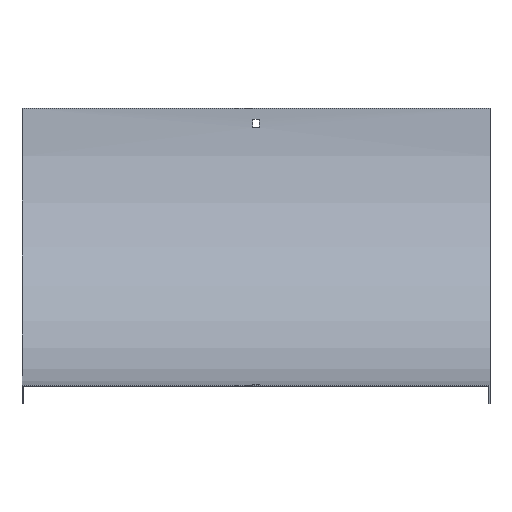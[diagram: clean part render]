
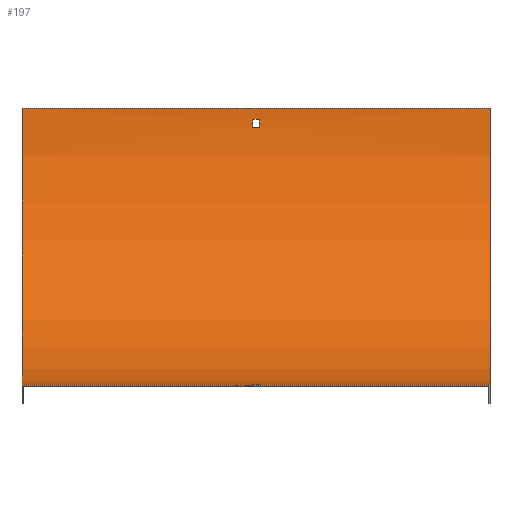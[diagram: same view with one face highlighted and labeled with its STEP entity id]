
A CAD part, top view. The second image highlights one B-rep face of the part: STEP entity #197.
In plain terms, the highlighted cylindrical face has radius 298.5 mm (diameter 597 mm), a partial arc.
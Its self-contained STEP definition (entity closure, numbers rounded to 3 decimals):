
#5 = LINE ( 'NONE', #240, #598 ) ;
#6 = ORIENTED_EDGE ( 'NONE', *, *, #430, .T. ) ;
#12 = VERTEX_POINT ( 'NONE', #390 ) ;
#15 = ORIENTED_EDGE ( 'NONE', *, *, #519, .T. ) ;
#20 = DIRECTION ( 'NONE',  ( 0., 0., 1. ) ) ;
#32 = CARTESIAN_POINT ( 'NONE',  ( -251.5, 298.5, 0. ) ) ;
#35 = CARTESIAN_POINT ( 'NONE',  ( 3.25, 298.5, 0. ) ) ;
#36 = CARTESIAN_POINT ( 'NONE',  ( 3.25, 0.241, -12. ) ) ;
#38 = DIRECTION ( 'NONE',  ( 0., 0., -1. ) ) ;
#40 = CYLINDRICAL_SURFACE ( 'NONE', #89, 298.5 ) ;
#44 = VECTOR ( 'NONE', #248, 1000. ) ;
#48 = CARTESIAN_POINT ( 'NONE',  ( 251.5, 0., 0. ) ) ;
#51 = DIRECTION ( 'NONE',  ( -1., 0., 0. ) ) ;
#56 = DIRECTION ( 'NONE',  ( -1., 0., 0. ) ) ;
#60 = VERTEX_POINT ( 'NONE', #352 ) ;
#62 = CARTESIAN_POINT ( 'NONE',  ( 3.25, 298.5, 0. ) ) ;
#66 = DIRECTION ( 'NONE',  ( 1., 0., 0. ) ) ;
#76 = CARTESIAN_POINT ( 'NONE',  ( -3.25, 298.5, 0. ) ) ;
#85 = VERTEX_POINT ( 'NONE', #117 ) ;
#89 = AXIS2_PLACEMENT_3D ( 'NONE', #508, #418, #270 ) ;
#104 = CARTESIAN_POINT ( 'NONE',  ( 251.5, 0., 0. ) ) ;
#108 = ORIENTED_EDGE ( 'NONE', *, *, #410, .F. ) ;
#109 = EDGE_LOOP ( 'NONE', ( #15, #108, #232, #6 ) ) ;
#115 = DIRECTION ( 'NONE',  ( 0., 0., 1. ) ) ;
#117 = CARTESIAN_POINT ( 'NONE',  ( 3.25, 277.5, -297.76 ) ) ;
#126 = FACE_BOUND ( 'NONE', #439, .T. ) ;
#127 = AXIS2_PLACEMENT_3D ( 'NONE', #543, #273, #539 ) ;
#129 = EDGE_CURVE ( 'NONE', #60, #205, #339, .T. ) ;
#131 = CARTESIAN_POINT ( 'NONE',  ( 251.5, 0.241, -12. ) ) ;
#139 = VERTEX_POINT ( 'NONE', #378 ) ;
#140 = LINE ( 'NONE', #415, #354 ) ;
#156 = VERTEX_POINT ( 'NONE', #228 ) ;
#157 = CARTESIAN_POINT ( 'NONE',  ( 251.5, 298.5, -298.5 ) ) ;
#161 = EDGE_CURVE ( 'NONE', #139, #200, #140, .T. ) ;
#170 = ORIENTED_EDGE ( 'NONE', *, *, #385, .F. ) ;
#179 = EDGE_CURVE ( 'NONE', #205, #449, #467, .T. ) ;
#190 = CARTESIAN_POINT ( 'NONE',  ( -3.25, 0.241, -12. ) ) ;
#194 = ORIENTED_EDGE ( 'NONE', *, *, #490, .T. ) ;
#195 = CARTESIAN_POINT ( 'NONE',  ( -3.25, 277.5, -297.76 ) ) ;
#197 = ADVANCED_FACE ( 'NONE', ( #423, #318, #126 ), #40, .F. ) ;
#200 = VERTEX_POINT ( 'NONE', #462 ) ;
#205 = VERTEX_POINT ( 'NONE', #36 ) ;
#216 = CIRCLE ( 'NONE', #289, 298.5 ) ;
#219 = LINE ( 'NONE', #261, #281 ) ;
#220 = DIRECTION ( 'NONE',  ( -1., 0., 0. ) ) ;
#223 = CARTESIAN_POINT ( 'NONE',  ( -251.5, 0., 0. ) ) ;
#228 = CARTESIAN_POINT ( 'NONE',  ( -251.5, 298.5, -298.5 ) ) ;
#232 = ORIENTED_EDGE ( 'NONE', *, *, #238, .F. ) ;
#234 = VECTOR ( 'NONE', #464, 1000. ) ;
#238 = EDGE_CURVE ( 'NONE', #305, #469, #343, .T. ) ;
#239 = CARTESIAN_POINT ( 'NONE',  ( 251.5, 277.5, -297.76 ) ) ;
#240 = CARTESIAN_POINT ( 'NONE',  ( 251.5, 298.5, -298.5 ) ) ;
#248 = DIRECTION ( 'NONE',  ( 1., 0., 0. ) ) ;
#261 = CARTESIAN_POINT ( 'NONE',  ( 251.5, 0.74, -21. ) ) ;
#269 = CARTESIAN_POINT ( 'NONE',  ( 251.5, 298.5, 0. ) ) ;
#270 = DIRECTION ( 'NONE',  ( 0., 0., 1. ) ) ;
#271 = DIRECTION ( 'NONE',  ( 1., 0., 0. ) ) ;
#273 = DIRECTION ( 'NONE',  ( -1., 0., 0. ) ) ;
#277 = EDGE_CURVE ( 'NONE', #85, #139, #559, .T. ) ;
#278 = DIRECTION ( 'NONE',  ( -1., 0., 0. ) ) ;
#281 = VECTOR ( 'NONE', #600, 1000. ) ;
#287 = LINE ( 'NONE', #48, #514 ) ;
#289 = AXIS2_PLACEMENT_3D ( 'NONE', #76, #271, #459 ) ;
#305 = VERTEX_POINT ( 'NONE', #157 ) ;
#318 = FACE_BOUND ( 'NONE', #406, .T. ) ;
#332 = CIRCLE ( 'NONE', #127, 298.5 ) ;
#333 = LINE ( 'NONE', #239, #44 ) ;
#339 = CIRCLE ( 'NONE', #491, 298.5 ) ;
#343 = CIRCLE ( 'NONE', #458, 298.5 ) ;
#352 = CARTESIAN_POINT ( 'NONE',  ( 3.25, 0.74, -21. ) ) ;
#354 = VECTOR ( 'NONE', #278, 1000. ) ;
#358 = ORIENTED_EDGE ( 'NONE', *, *, #129, .T. ) ;
#364 = VERTEX_POINT ( 'NONE', #195 ) ;
#370 = DIRECTION ( 'NONE',  ( -1., 0., 0. ) ) ;
#376 = ORIENTED_EDGE ( 'NONE', *, *, #528, .F. ) ;
#378 = CARTESIAN_POINT ( 'NONE',  ( 3.25, 286.5, -298.259 ) ) ;
#379 = AXIS2_PLACEMENT_3D ( 'NONE', #32, #370, #115 ) ;
#385 = EDGE_CURVE ( 'NONE', #364, #85, #333, .T. ) ;
#390 = CARTESIAN_POINT ( 'NONE',  ( -3.25, 0.74, -21. ) ) ;
#406 = EDGE_LOOP ( 'NONE', ( #566, #194, #571, #358 ) ) ;
#410 = EDGE_CURVE ( 'NONE', #469, #496, #287, .T. ) ;
#415 = CARTESIAN_POINT ( 'NONE',  ( 251.5, 286.5, -298.259 ) ) ;
#418 = DIRECTION ( 'NONE',  ( -1., 0., 0. ) ) ;
#423 = FACE_OUTER_BOUND ( 'NONE', #109, .T. ) ;
#430 = EDGE_CURVE ( 'NONE', #305, #156, #5, .T. ) ;
#434 = ORIENTED_EDGE ( 'NONE', *, *, #277, .F. ) ;
#436 = ORIENTED_EDGE ( 'NONE', *, *, #161, .F. ) ;
#439 = EDGE_LOOP ( 'NONE', ( #376, #436, #434, #170 ) ) ;
#444 = AXIS2_PLACEMENT_3D ( 'NONE', #62, #66, #544 ) ;
#449 = VERTEX_POINT ( 'NONE', #190 ) ;
#458 = AXIS2_PLACEMENT_3D ( 'NONE', #269, #220, #20 ) ;
#459 = DIRECTION ( 'NONE',  ( 0., 0., 1. ) ) ;
#462 = CARTESIAN_POINT ( 'NONE',  ( -3.25, 286.5, -298.259 ) ) ;
#464 = DIRECTION ( 'NONE',  ( -1., 0., 0. ) ) ;
#467 = LINE ( 'NONE', #131, #234 ) ;
#469 = VERTEX_POINT ( 'NONE', #104 ) ;
#490 = EDGE_CURVE ( 'NONE', #449, #12, #216, .T. ) ;
#491 = AXIS2_PLACEMENT_3D ( 'NONE', #35, #597, #38 ) ;
#496 = VERTEX_POINT ( 'NONE', #223 ) ;
#508 = CARTESIAN_POINT ( 'NONE',  ( 251.5, 298.5, 0. ) ) ;
#514 = VECTOR ( 'NONE', #56, 1000. ) ;
#519 = EDGE_CURVE ( 'NONE', #156, #496, #526, .T. ) ;
#526 = CIRCLE ( 'NONE', #379, 298.5 ) ;
#528 = EDGE_CURVE ( 'NONE', #200, #364, #332, .T. ) ;
#539 = DIRECTION ( 'NONE',  ( 0., 1., 0. ) ) ;
#543 = CARTESIAN_POINT ( 'NONE',  ( -3.25, 298.5, 0. ) ) ;
#544 = DIRECTION ( 'NONE',  ( 0., 0., 1. ) ) ;
#547 = EDGE_CURVE ( 'NONE', #12, #60, #219, .T. ) ;
#559 = CIRCLE ( 'NONE', #444, 298.5 ) ;
#566 = ORIENTED_EDGE ( 'NONE', *, *, #179, .T. ) ;
#571 = ORIENTED_EDGE ( 'NONE', *, *, #547, .T. ) ;
#597 = DIRECTION ( 'NONE',  ( -1., 0., 0. ) ) ;
#598 = VECTOR ( 'NONE', #51, 1000. ) ;
#600 = DIRECTION ( 'NONE',  ( 1., 0., 0. ) ) ;
